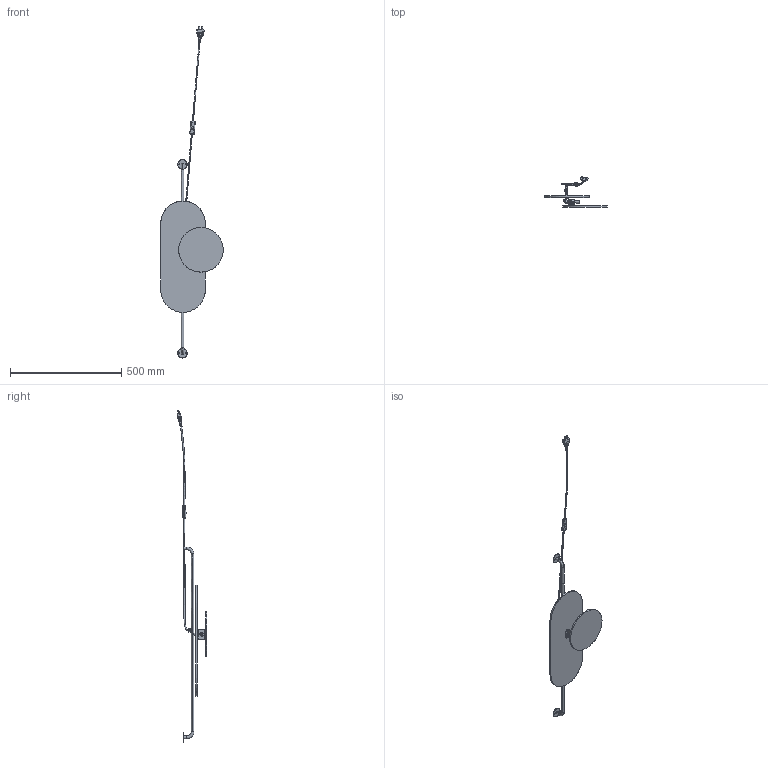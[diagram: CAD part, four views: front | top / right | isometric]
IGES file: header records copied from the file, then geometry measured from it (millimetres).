
Start section: SolidWorks IGES file using analytic representation for surfaces
Global section: file name: Z:\Modele 3D_WWW\_KOLEKCJE_WWW\WHEEL\WHEEL-LUX-I-8430\WHEEL-LUX-I-8430.IGS; native system: SolidWorks 2021; preprocessor: SolidWorks 2021; author: gabriela.tworek; date: 210705.132942; units: millimetre
Bounding box: 280.6 x 134.19 x 1490.58 mm (x, y, z)
Surface area: 383317.4 mm2 (no closed solid volume)
Topology: 0 solids, 0 shells, 706 faces, 8885 edges, 8871 vertices
Faces by surface type: bspline 431, revolution 275
